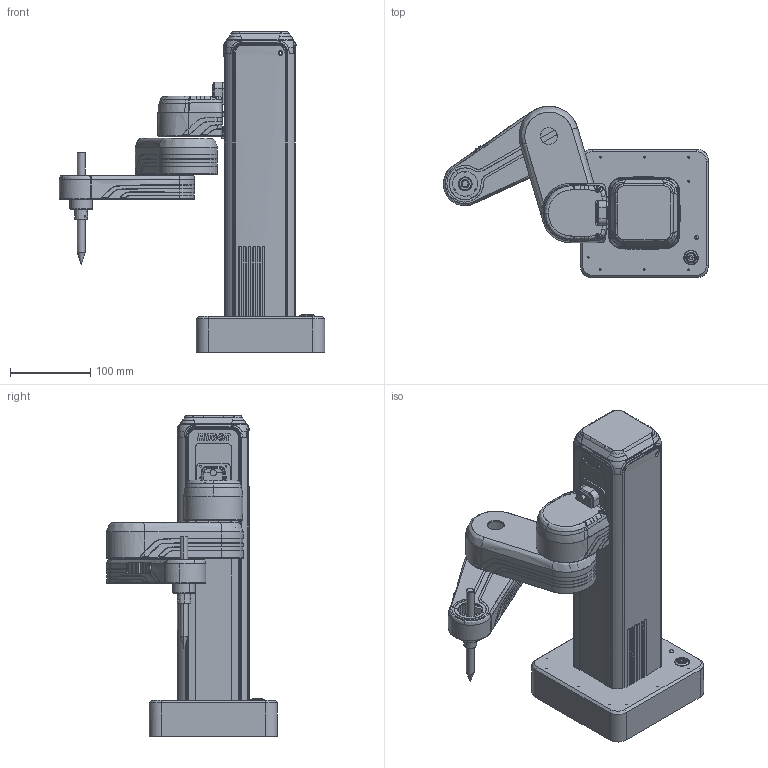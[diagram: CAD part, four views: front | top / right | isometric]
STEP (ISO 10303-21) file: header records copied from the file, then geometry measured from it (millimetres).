
FILE_DESCRIPTION(/* description */ (''),/* implementation_level */ '2;1');
FILE_NAME(/* name */ '1522网~1',/* time_stamp */ '2020-11-16T11:29:49+08:00',/* author */ (''),/* organization */ (''),/* preprocessor_version */ 'ST-DEVELOPER v16.5',/* originating_system */ '',/* authorisation */ '');
FILE_SCHEMA (('AUTOMOTIVE_DESIGN'));
Products named in the file (79): Document; 图块 88; 臂体四实体2; 图块 34; 图块 33; 图块 32; 图块 134; 图块 133; 图块 42; 图块 41; 图块 82; 图块 80; 图块 81; 图块 13; 图块 12; 图块 63; 图块 62; 图块 75; 图块 74; 图块 31; 图块 30; 图块 79; 图块 78; di1biti2; 图块 61; 图块 60; 图块 59; 图块 100; 图块 99; NONE8; 图块 104; 图块 103; 图块 126; 图块 125; 图块 128; 图块 127; 图块 130; 图块 129; 图块 132; 图块 131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
Assembly tree (83 placements, depth 4):
  Document
    图块 88
    臂体四实体2
      图块 34
    图块 33
      图块 32
    图块 134
      图块 133
    图块 42  x2
      图块 41
    图块 82
      图块 80
      图块 81
    图块 13  x4
      图块 12
    图块 63
      图块 62
    图块 75
      图块 74
    图块 31
      图块 30
    图块 79
      图块 78
    di1biti2
      图块 61
    图块 60
      图块 59
    图块 100
      图块 99
      NONE8
    图块 104
      图块 103
    图块 126
      图块 125
    图块 128
      图块 127
    图块 130
      图块 129
    图块 132
      图块 131
    图块 138
      图块 137
    图块 143
      图块 142
    图块 145
      图块 144
    图块 147
      NONE9
      图块 146
    图块 149
      图块 148
    图块 155  x2
      图块 17
        图块 16
      图块 15
        图块 14
    调整立柱厚度
      图块 11
      NONE
    图块 69
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Bounding box: 330.61 x 213.09 x 400 mm (x, y, z)
Surface area: 772773.6 mm2 (no closed solid volume)
Topology: 0 solids, 3186 shells, 3227 faces, 18269 edges, 18129 vertices
Faces by surface type: bspline 3227
Entity records: 410053 total; most frequent: CARTESIAN_POINT 227733, B_SPLINE_CURVE_WITH_KNOTS 28814, ORIENTED_EDGE 17674, PCURVE 17674, DEFINITIONAL_REPRESENTATION 17674, SURFACE_CURVE 17595, EDGE_CURVE 17595, VERTEX_POINT 17552
